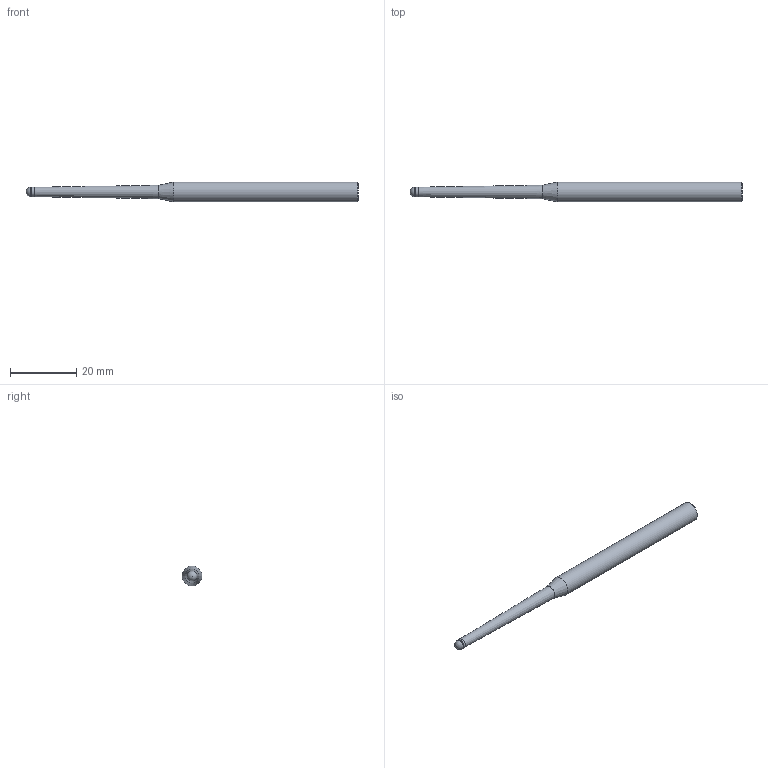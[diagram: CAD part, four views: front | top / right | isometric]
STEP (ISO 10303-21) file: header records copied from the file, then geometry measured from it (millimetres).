
FILE_DESCRIPTION(/* description */ (''),/* implementation_level */ '2;1');
FILE_NAME(/* name */ 'HGXPB2030-40-T0.9 06100.stp',/* time_stamp */ '2026-01-23T15:49:30+08:00',/* author */ (''),/* organization */ (''),/* preprocessor_version */ 'ST-DEVELOPER v16',/* originating_system */ 'SIEMENS PLM Software NX 10.0',/* authorisation */ '');
FILE_SCHEMA (('CONFIG_CONTROL_DESIGN'));
Length unit declared in the file: millimetre
Products named in the file (1): HGXPB2030-40-T0.9 06100_dxf
Bounding box: 100 x 6 x 6 mm (x, y, z)
Volume: 2034.8 mm3; surface area: 1578.7 mm2
Topology: 1 solids, 1 shells, 9 faces, 17 edges, 10 vertices
Faces by surface type: cylinder 3, cone 3, plane 2, sphere 1
Full cylindrical faces by diameter (mm): 2.9 x1, 3 x1, 6 x1
Entity records: 258 total; most frequent: DIRECTION 36, CARTESIAN_POINT 26, AXIS2_PLACEMENT_3D 18, EDGE_LOOP 16, ORIENTED_EDGE 16, FACE_BOUND 14, ADVANCED_FACE 9, VERTEX_POINT 8
